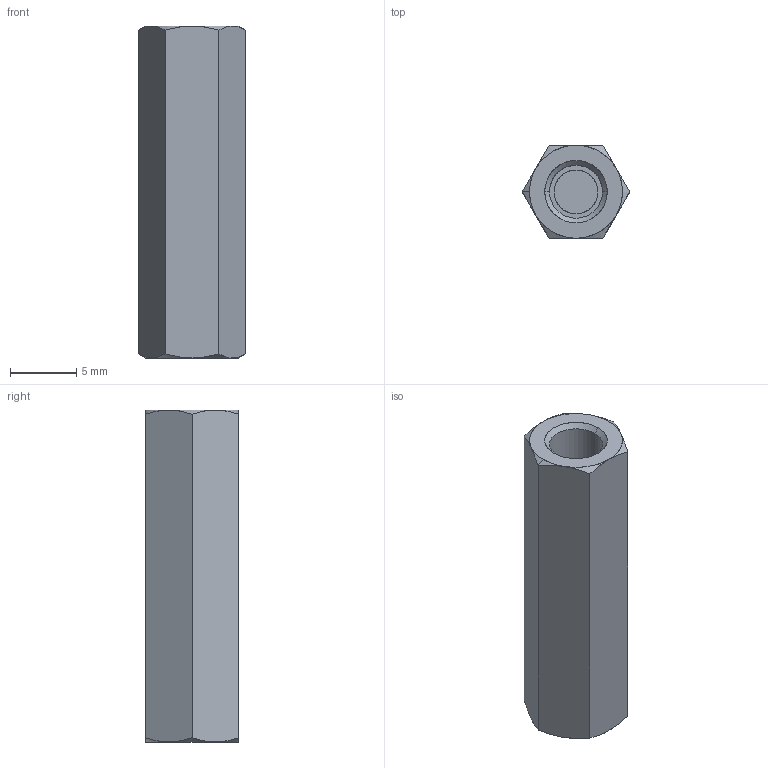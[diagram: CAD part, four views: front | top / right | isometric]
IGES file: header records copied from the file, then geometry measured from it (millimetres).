
Start section: SolidWorks IGES file using analytic representation for surfaces
Global section: file name: C:\Users\ianosborn\Desktop\N0503.NP_v2\N0503.NP_v2_20250227_IGES\N0503.040-025-NP.igs; native system: SolidWorks 2019; preprocessor: SolidWorks 2019; author: IanOsborn; date: 250227.144307; units: millimetre
Bounding box: 8.08 x 7 x 25 mm (x, y, z)
Surface area: 956.7 mm2 (no closed solid volume)
Topology: 0 solids, 0 shells, 39 faces, 478 edges, 476 vertices
Faces by surface type: revolution 28, bspline 11
